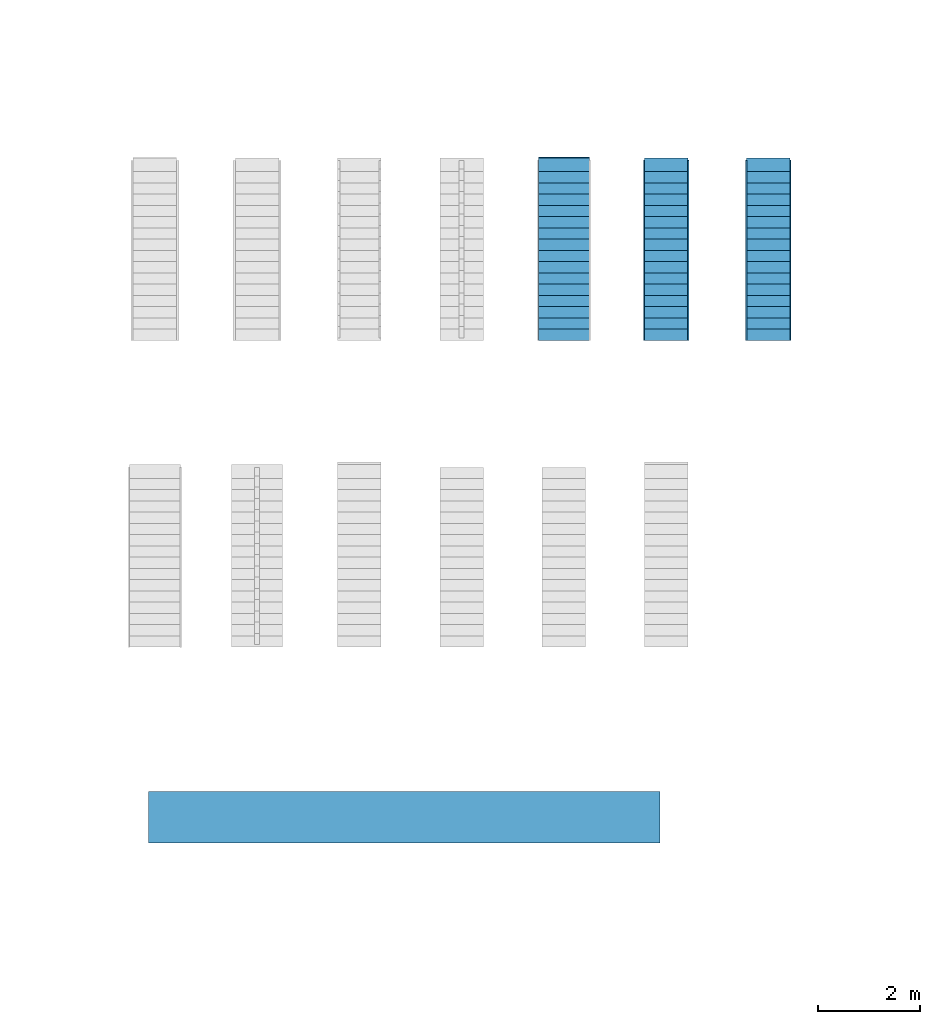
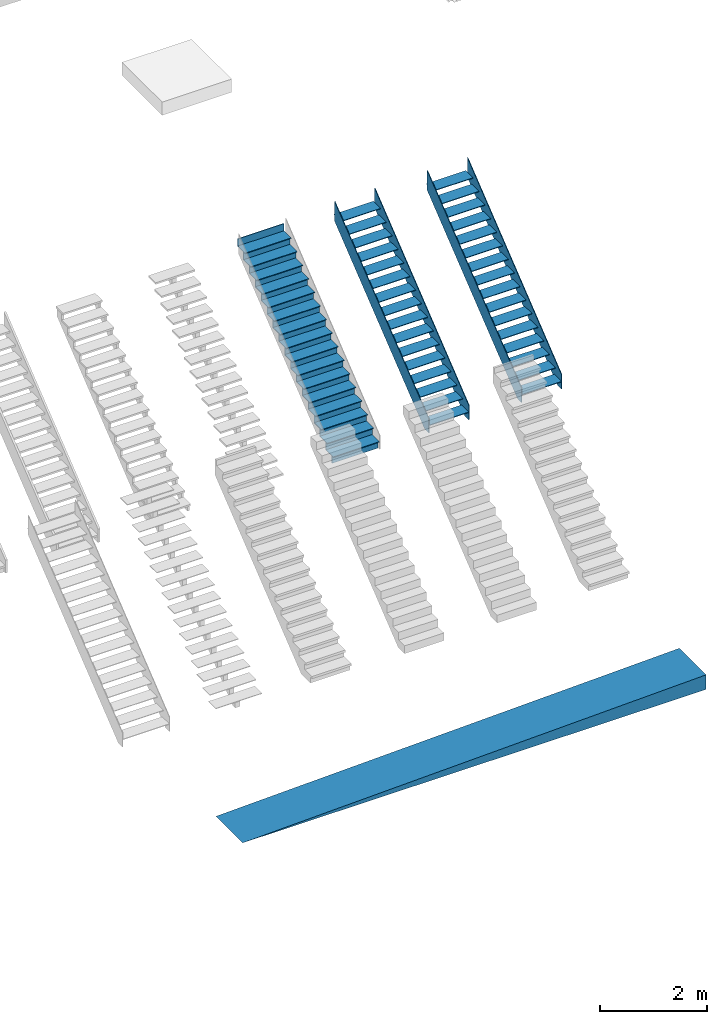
# One storey, part 5 of 11: 5 stairs, 1 ramp, 6 elements without a shape of their own.
"""IFC2X3 building model written with IfcOpenShell, lengths in millimetres."""

from ifc_helpers import new_model, entity, si_unit, converted_unit, derived_unit, direction, frame, frame_2d, origin, origin_2d_with_axis, place, context, subcontext, project, spatial, polyline, rectangle, outline, extrude, material, element, aggregate, save


model = new_model("IFC2X3")

# Units and contexts
model_context = context("Model", 3, precision=0.01, world=origin(), true_north=direction((6.12303176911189e-17, 1.0)))
body_context = subcontext(model_context, "Body", "Model", "MODEL_VIEW")
ifc_project = project(units=[si_unit("LENGTHUNIT", "METRE", prefix="MILLI"), si_unit("AREAUNIT", "SQUARE_METRE"), si_unit("VOLUMEUNIT", "CUBIC_METRE"), converted_unit("PLANEANGLEUNIT", "DEGREE", entity("IfcRatioMeasure", 0.0174532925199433), si_unit("PLANEANGLEUNIT", "RADIAN"), dimensions=[0, 0, 0, 0, 0, 0, 0]), si_unit("MASSUNIT", "GRAM", prefix="KILO"), si_unit("TIMEUNIT", "SECOND"), si_unit("FREQUENCYUNIT", "HERTZ"), si_unit("THERMODYNAMICTEMPERATUREUNIT", "KELVIN"), derived_unit("THERMALTRANSMITTANCEUNIT", [(si_unit("MASSUNIT", "GRAM", prefix="KILO"), 1), (si_unit("THERMODYNAMICTEMPERATUREUNIT", "KELVIN"), -1), (si_unit("TIMEUNIT", "SECOND"), -3)]), derived_unit("VOLUMETRICFLOWRATEUNIT", [(si_unit("LENGTHUNIT", "METRE"), 3), (si_unit("TIMEUNIT", "SECOND"), -1)]), si_unit("ELECTRICCURRENTUNIT", "AMPERE"), si_unit("ELECTRICVOLTAGEUNIT", "VOLT"), si_unit("POWERUNIT", "WATT")], contexts=[model_context])

# Site, building, storey
site_placement = place(None, origin())
site = spatial("IfcSite", under=ifc_project, at=site_placement, Name="Surface:5707", CompositionType="ELEMENT")
building_placement = place(site_placement, origin())
building = spatial("IfcBuilding", under=site, at=building_placement, CompositionType="ELEMENT")
storey_placement = place(building_placement, origin())
storey = spatial("IfcBuildingStorey", under=building, at=storey_placement, Name="00_begane grond", CompositionType="ELEMENT", Elevation=0.0)

# Stairs
stair_1_placement = place(storey_placement, frame((25274.8089026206, -25324.6322235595, 0.0)))
stair_1 = element("IfcStair", 1, at=stair_1_placement, inside=storey, Name="Assembled Stair:Stair:69280 Run 1:Stair:69280 Run 1 : Assembled Stair:Stair:69280 Run 1:3305", ObjectType="Assembled Stair:Stair:69280 Run 1:Assembled Stair:Stair:69280 Run 1:3303", ShapeType="NOTDEFINED")
ifc_material_1 = material(Name="24_staal_gegalvaniseerd_rooster_generiek")
stair_2_placement = place(stair_1_placement, origin())
stair_2 = element("IfcStair", 2, at=stair_2_placement, material=ifc_material_1, Name="Assembled Stair:Stair:69280 Run 1:Stair:69280 Run 1 : Assembled Stair:Stair:69280 Run 1:3305", ObjectType="Assembled Stair:Stair:69280 Run 1:Assembled Stair:Stair:69280 Run 1:3303", ShapeType="NOTDEFINED", context=body_context, shape_type="SweptSolid", body=[
    extrude(rectangle(XDim=15.0000000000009, YDim=999.999999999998, at=frame_2d((2.16582307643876e-12, 0.0), x_axis=(1.0, 0.0))), frame((500.0, 3577.5, 2823.5294117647), z_axis=(0.0, 0.0, 1.0), x_axis=(0.0, -1.0, 0.0)), (0.0, 0.0, 1.0), 161.470588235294),
    extrude(rectangle(XDim=14.9999999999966, YDim=999.999999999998, at=origin_2d_with_axis()), frame((500.0, 3357.49999999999, 2647.05882352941), z_axis=(0.0, 0.0, 1.0), x_axis=(0.0, -1.0, 0.0)), (0.0, 0.0, 1.0), 161.470588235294),
    extrude(rectangle(XDim=999.999999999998, YDim=285.000000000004, at=origin_2d_with_axis()), frame((500.0, 3442.5, 2808.5294117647)), (0.0, 0.0, 1.0), 14.9999999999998),
    extrude(rectangle(XDim=14.9999999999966, YDim=999.999999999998, at=origin_2d_with_axis()), frame((500.0, 3137.5, 2470.58823529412), z_axis=(0.0, 0.0, 1.0), x_axis=(0.0, -1.0, 0.0)), (0.0, 0.0, 1.0), 161.470588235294),
    extrude(rectangle(XDim=999.999999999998, YDim=285.0, at=frame_2d((0.0, 2.1600499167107e-12), x_axis=(1.0, 0.0))), frame((500.0, 3222.5, 2632.05882352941)), (0.0, 0.0, 1.0), 14.9999999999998),
    extrude(rectangle(XDim=15.0000000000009, YDim=999.999999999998, at=frame_2d((-2.16582307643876e-12, 0.0), x_axis=(1.0, 0.0))), frame((500.0, 2917.5, 2294.11764705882), z_axis=(0.0, 0.0, 1.0), x_axis=(0.0, -1.0, 0.0)), (0.0, 0.0, 1.0), 161.470588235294),
    extrude(rectangle(XDim=999.999999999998, YDim=284.999999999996, at=origin_2d_with_axis()), frame((500.0, 3002.5, 2455.58823529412)), (0.0, 0.0, 1.0), 14.9999999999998),
    extrude(rectangle(XDim=15.0000000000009, YDim=999.999999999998, at=frame_2d((-2.16582307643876e-12, 0.0), x_axis=(1.0, 0.0))), frame((500.0, 2697.49999999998, 2117.64705882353), z_axis=(0.0, 0.0, 1.0), x_axis=(0.0, -1.0, 0.0)), (0.0, 0.0, 1.0), 161.470588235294),
    extrude(rectangle(XDim=999.999999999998, YDim=285.0, at=frame_2d((0.0, -2.1600499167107e-12), x_axis=(1.0, 0.0))), frame((500.0, 2782.5, 2279.11764705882)), (0.0, 0.0, 1.0), 15.0000000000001),
    extrude(rectangle(XDim=15.0000000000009, YDim=999.999999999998, at=frame_2d((2.16582307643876e-12, 0.0), x_axis=(1.0, 0.0))), frame((500.0, 2477.5, 1941.17647058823), z_axis=(0.0, 0.0, 1.0), x_axis=(0.0, -1.0, 0.0)), (0.0, 0.0, 1.0), 161.470588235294),
    extrude(rectangle(XDim=999.999999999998, YDim=285.0, at=frame_2d((0.0, -2.1600499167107e-12), x_axis=(1.0, 0.0))), frame((500.0, 2562.5, 2102.64705882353)), (0.0, 0.0, 1.0), 15.0000000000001),
    extrude(rectangle(XDim=15.0000000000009, YDim=999.999999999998, at=frame_2d((2.16582307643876e-12, 0.0), x_axis=(1.0, 0.0))), frame((500.0, 2257.5, 1764.70588235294), z_axis=(0.0, 0.0, 1.0), x_axis=(0.0, -1.0, 0.0)), (0.0, 0.0, 1.0), 161.470588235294),
    extrude(rectangle(XDim=999.999999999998, YDim=285.0, at=frame_2d((0.0, 2.1600499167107e-12), x_axis=(1.0, 0.0))), frame((500.0, 2342.5, 1926.17647058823)), (0.0, 0.0, 1.0), 15.0000000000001),
    extrude(rectangle(XDim=15.0000000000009, YDim=999.999999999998, at=frame_2d((-2.16582307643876e-12, 0.0), x_axis=(1.0, 0.0))), frame((500.0, 2037.5, 1588.23529411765), z_axis=(0.0, 0.0, 1.0), x_axis=(0.0, -1.0, 0.0)), (0.0, 0.0, 1.0), 161.470588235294),
    extrude(rectangle(XDim=999.999999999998, YDim=285.0, at=frame_2d((0.0, 2.1600499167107e-12), x_axis=(1.0, 0.0))), frame((500.0, 2122.49999999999, 1749.70588235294)), (0.0, 0.0, 1.0), 15.0000000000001),
    extrude(rectangle(XDim=15.0000000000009, YDim=999.999999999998, at=frame_2d((-2.16582307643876e-12, 0.0), x_axis=(1.0, 0.0))), frame((500.0, 1817.49999999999, 1411.76470588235), z_axis=(0.0, 0.0, 1.0), x_axis=(0.0, -1.0, 0.0)), (0.0, 0.0, 1.0), 161.470588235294),
    extrude(rectangle(XDim=999.999999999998, YDim=285.0, at=frame_2d((0.0, 2.1600499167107e-12), x_axis=(1.0, 0.0))), frame((500.0, 1902.5, 1573.23529411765)), (0.0, 0.0, 1.0), 15.0000000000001),
    extrude(rectangle(XDim=15.0000000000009, YDim=999.999999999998, at=frame_2d((2.16582307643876e-12, 0.0), x_axis=(1.0, 0.0))), frame((500.0, 1597.5, 1235.29411764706), z_axis=(0.0, 0.0, 1.0), x_axis=(0.0, -1.0, 0.0)), (0.0, 0.0, 1.0), 161.470588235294),
    extrude(rectangle(XDim=999.999999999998, YDim=284.999999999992, at=frame_2d((0.0, -2.1600499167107e-12), x_axis=(1.0, 0.0))), frame((500.0, 1682.5, 1396.76470588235)), (0.0, 0.0, 1.0), 15.0000000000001),
    extrude(rectangle(XDim=15.0000000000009, YDim=999.999999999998, at=frame_2d((2.16582307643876e-12, 0.0), x_axis=(1.0, 0.0))), frame((500.0, 1377.49999999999, 1058.82352941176), z_axis=(0.0, 0.0, 1.0), x_axis=(0.0, -1.0, 0.0)), (0.0, 0.0, 1.0), 161.470588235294),
    extrude(rectangle(XDim=999.999999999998, YDim=285.0, at=frame_2d((0.0, 2.1600499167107e-12), x_axis=(1.0, 0.0))), frame((500.0, 1462.5, 1220.29411764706)), (0.0, 0.0, 1.0), 15.0000000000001),
    extrude(rectangle(XDim=15.0000000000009, YDim=999.999999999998, at=frame_2d((-2.16582307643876e-12, 0.0), x_axis=(1.0, 0.0))), frame((500.0, 1157.5, 882.35294117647), z_axis=(0.0, 0.0, 1.0), x_axis=(0.0, -1.0, 0.0)), (0.0, 0.0, 1.0), 161.470588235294),
    extrude(rectangle(XDim=999.999999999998, YDim=284.999999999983, at=frame_2d((0.0, 2.17426077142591e-12), x_axis=(1.0, 0.0))), frame((500.0, 1242.49999999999, 1043.82352941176)), (0.0, 0.0, 1.0), 15.0),
    extrude(rectangle(XDim=15.0000000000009, YDim=999.999999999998, at=frame_2d((2.16582307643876e-12, 0.0), x_axis=(1.0, 0.0))), frame((500.0, 937.499999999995, 705.882352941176), z_axis=(0.0, 0.0, 1.0), x_axis=(0.0, -1.0, 0.0)), (0.0, 0.0, 1.0), 161.470588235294),
    extrude(rectangle(XDim=999.999999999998, YDim=285.000000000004, at=origin_2d_with_axis()), frame((500.0, 1022.5, 867.35294117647)), (0.0, 0.0, 1.0), 15.0),
    extrude(rectangle(XDim=14.9999999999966, YDim=999.999999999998, at=origin_2d_with_axis()), frame((500.0, 717.499999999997, 529.411764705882), z_axis=(0.0, 0.0, 1.0), x_axis=(0.0, -1.0, 0.0)), (0.0, 0.0, 1.0), 161.470588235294),
    extrude(rectangle(XDim=999.999999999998, YDim=284.999999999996, at=origin_2d_with_axis()), frame((500.0, 802.499999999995, 690.882352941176)), (0.0, 0.0, 1.0), 15.0),
    extrude(rectangle(XDim=15.0000000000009, YDim=999.999999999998, at=frame_2d((2.16582307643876e-12, 0.0), x_axis=(1.0, 0.0))), frame((500.0, 497.5, 352.941176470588), z_axis=(0.0, 0.0, 1.0), x_axis=(0.0, -1.0, 0.0)), (0.0, 0.0, 1.0), 161.470588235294),
    extrude(rectangle(XDim=999.999999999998, YDim=285.0, at=frame_2d((0.0, -2.1600499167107e-12), x_axis=(1.0, 0.0))), frame((500.0, 582.499999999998, 514.411764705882)), (0.0, 0.0, 1.0), 15.0),
    extrude(rectangle(XDim=15.0000000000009, YDim=999.999999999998, at=frame_2d((2.16582307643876e-12, 0.0), x_axis=(1.0, 0.0))), frame((500.0, 277.499999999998, 176.470588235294), z_axis=(0.0, 0.0, 1.0), x_axis=(0.0, -1.0, 0.0)), (0.0, 0.0, 1.0), 161.470588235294),
    extrude(rectangle(XDim=999.999999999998, YDim=284.999999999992, at=frame_2d((0.0, -2.1600499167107e-12), x_axis=(1.0, 0.0))), frame((500.0, 362.5, 337.941176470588)), (0.0, 0.0, 1.0), 15.0),
    extrude(rectangle(XDim=15.0000000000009, YDim=999.999999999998, at=frame_2d((2.16582307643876e-12, 0.0), x_axis=(1.0, 0.0))), frame((500.0, 57.4999999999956, 0.0), z_axis=(0.0, 0.0, 1.0), x_axis=(0.0, -1.0, 0.0)), (0.0, 0.0, 1.0), 161.470588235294),
    extrude(rectangle(XDim=999.999999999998, YDim=285.0, at=frame_2d((0.0, 2.1600499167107e-12), x_axis=(1.0, 0.0))), frame((500.0, 142.499999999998, 161.470588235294)), (0.0, 0.0, 1.0), 15.0),
])
aggregate(stair_1, [stair_2])

stair_3_placement = place(storey_placement, frame((27334.8089026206, -25324.6322235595, 0.0)))
stair_3 = element("IfcStair", 3, at=stair_3_placement, inside=storey, Name="Assembled Stair:Stair:69283 Stringer 1:Stair:69283 Stringer 1 : Assembled Stair:Stair:69283 Stringer 1:3548", ObjectType="Assembled Stair:Stair:69283 Stringer 1:Assembled Stair:Stair:69283 Stringer 1:3546", ShapeType="NOTDEFINED")
ifc_material_2 = material(Name="24_hout_vuren_generiek")
stair_4_placement = place(stair_3_placement, origin())
stair_4 = element("IfcStair", 4, at=stair_4_placement, material=ifc_material_2, Name="Assembled Stair:Stair:69283 Stringer 1:Stair:69283 Stringer 1 : Assembled Stair:Stair:69283 Stringer 1:3548", ObjectType="Assembled Stair:Stair:69283 Stringer 1:Assembled Stair:Stair:69283 Stringer 1:3546", ShapeType="NOTDEFINED", context=body_context, shape_type="SweptSolid", body=[
    extrude(outline(polyline([(-1779.81095331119, -158.597281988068), (2542.18483927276, -158.597281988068), (2822.93350237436, 191.402718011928), (-1689.57337729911, 191.402718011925), (-1895.7340110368, -65.6108720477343), (-1779.81095331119, -158.597281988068)])), frame((865.0, 1437.72179519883, 1237.36343357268), z_axis=(1.0, 0.0, 0.0), x_axis=(0.0, 0.780054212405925, 0.625711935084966)), (0.0, 0.0, 1.0), 15.0000000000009),
    extrude(outline(polyline([(-1779.81095331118, -158.597281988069), (2542.18483927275, -158.597281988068), (2822.93350237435, 191.402718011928), (-1689.5733772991, 191.402718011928), (-1895.7340110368, -65.6108720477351), (-1779.81095331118, -158.597281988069)])), frame((0.0, 1437.72179519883, 1237.36343357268), z_axis=(1.0, 0.0, 0.0), x_axis=(0.0, 0.780054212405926, 0.625711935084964)), (0.0, 0.0, 1.0), 15.0000000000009),
])
aggregate(stair_3, [stair_4])

stair_5_placement = place(storey_placement, frame((27349.8089026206, -25324.6322235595, 161.470588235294)))
stair_5 = element("IfcStair", 5, at=stair_5_placement, inside=storey, Name="Assembled Stair:Stair:69283 Run 1:Stair:69283 Run 1 : Assembled Stair:Stair:69283 Run 1:3573", ObjectType="Assembled Stair:Stair:69283 Run 1:Assembled Stair:Stair:69283 Run 1:3571", ShapeType="NOTDEFINED")
stair_6_placement = place(stair_5_placement, origin())
stair_6 = element("IfcStair", 6, at=stair_6_placement, material=ifc_material_1, Name="Assembled Stair:Stair:69283 Run 1:Stair:69283 Run 1 : Assembled Stair:Stair:69283 Run 1:3573", ObjectType="Assembled Stair:Stair:69283 Run 1:Assembled Stair:Stair:69283 Run 1:3571", ShapeType="NOTDEFINED", context=body_context, shape_type="SweptSolid", body=[
    extrude(rectangle(XDim=849.999999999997, YDim=270.000000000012, at=frame_2d((0.0, -2.17426077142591e-12), x_axis=(1.0, 0.0))), frame((425.0, 3435.0, 2647.05882352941)), (0.0, 0.0, 1.0), 14.9999999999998),
    extrude(rectangle(XDim=849.999999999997, YDim=269.999999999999, at=origin_2d_with_axis()), frame((425.0, 3215.0, 2470.58823529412)), (0.0, 0.0, 1.0), 14.9999999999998),
    extrude(rectangle(XDim=849.999999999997, YDim=269.999999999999, at=origin_2d_with_axis()), frame((425.0, 2995.0, 2294.11764705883)), (0.0, 0.0, 1.0), 14.9999999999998),
    extrude(rectangle(XDim=849.999999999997, YDim=269.999999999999, at=origin_2d_with_axis()), frame((425.0, 2775.0, 2117.64705882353)), (0.0, 0.0, 1.0), 15.0000000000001),
    extrude(rectangle(XDim=849.999999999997, YDim=270.000000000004, at=frame_2d((0.0, -2.1600499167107e-12), x_axis=(1.0, 0.0))), frame((425.0, 2555.0, 1941.17647058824)), (0.0, 0.0, 1.0), 15.0000000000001),
    extrude(rectangle(XDim=849.999999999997, YDim=269.999999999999, at=origin_2d_with_axis()), frame((425.0, 2335.0, 1764.70588235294)), (0.0, 0.0, 1.0), 15.0000000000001),
    extrude(rectangle(XDim=849.999999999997, YDim=269.999999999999, at=origin_2d_with_axis()), frame((425.0, 2115.0, 1588.23529411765)), (0.0, 0.0, 1.0), 15.0000000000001),
    extrude(rectangle(XDim=849.999999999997, YDim=270.000000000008, at=origin_2d_with_axis()), frame((425.0, 1895.0, 1411.76470588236)), (0.0, 0.0, 1.0), 15.0000000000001),
    extrude(rectangle(XDim=849.999999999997, YDim=269.999999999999, at=origin_2d_with_axis()), frame((425.0, 1675.0, 1235.29411764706)), (0.0, 0.0, 1.0), 15.0000000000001),
    extrude(rectangle(XDim=849.999999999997, YDim=270.000000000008, at=origin_2d_with_axis()), frame((425.0, 1455.0, 1058.82352941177)), (0.0, 0.0, 1.0), 15.0000000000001),
    extrude(rectangle(XDim=849.999999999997, YDim=269.999999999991, at=origin_2d_with_axis()), frame((425.0, 1235.0, 882.352941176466)), (0.0, 0.0, 1.0), 15.0),
    extrude(rectangle(XDim=849.999999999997, YDim=270.000000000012, at=frame_2d((0.0, -2.17426077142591e-12), x_axis=(1.0, 0.0))), frame((425.0, 1015.0, 705.882352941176)), (0.0, 0.0, 1.0), 15.0),
    extrude(rectangle(XDim=849.999999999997, YDim=269.999999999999, at=origin_2d_with_axis()), frame((425.0, 795.0, 529.411764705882)), (0.0, 0.0, 1.0), 15.0),
    extrude(rectangle(XDim=849.999999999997, YDim=270.000000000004, at=frame_2d((0.0, -2.1600499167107e-12), x_axis=(1.0, 0.0))), frame((425.0, 575.0, 352.941176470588)), (0.0, 0.0, 1.0), 15.0),
    extrude(rectangle(XDim=849.999999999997, YDim=269.999999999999, at=origin_2d_with_axis()), frame((425.0, 355.0, 176.470588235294)), (0.0, 0.0, 1.0), 15.0),
    extrude(rectangle(XDim=849.999999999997, YDim=270.000000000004, at=frame_2d((0.0, 2.1600499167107e-12), x_axis=(1.0, 0.0))), frame((425.0, 135.0, 0.0)), (0.0, 0.0, 1.0), 15.0),
])
aggregate(stair_5, [stair_6])

stair_7_placement = place(storey_placement, frame((29334.8089026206, -25324.6322235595, 0.0)))
stair_7 = element("IfcStair", 7, at=stair_7_placement, inside=storey, Name="Assembled Stair:Stair:69288 Stringer 1:Stair:69288 Stringer 1 : Assembled Stair:Stair:69288 Stringer 1:3696", ObjectType="Assembled Stair:Stair:69288 Stringer 1:Assembled Stair:Stair:69288 Stringer 1:3694", ShapeType="NOTDEFINED")
stair_8_placement = place(stair_7_placement, origin())
stair_8 = element("IfcStair", 8, at=stair_8_placement, material=ifc_material_2, Name="Assembled Stair:Stair:69288 Stringer 1:Stair:69288 Stringer 1 : Assembled Stair:Stair:69288 Stringer 1:3696", ObjectType="Assembled Stair:Stair:69288 Stringer 1:Assembled Stair:Stair:69288 Stringer 1:3694", ShapeType="NOTDEFINED", context=body_context, shape_type="SweptSolid", body=[
    extrude(outline(polyline([(-1779.81095331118, -158.597281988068), (2542.18483927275, -158.597281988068), (2822.93350237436, 191.402718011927), (-1689.57337729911, 191.40271801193), (-1895.73401103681, -65.6108720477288), (-1779.81095331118, -158.597281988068)])), frame((865.0, 1437.72179519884, 1237.36343357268), z_axis=(1.0, 0.0, 0.0), x_axis=(0.0, 0.780054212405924, 0.625711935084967)), (0.0, 0.0, 1.0), 15.0000000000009),
    extrude(outline(polyline([(-1779.81095331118, -158.597281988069), (2542.18483927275, -158.597281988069), (2822.93350237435, 191.402718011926), (-1689.57337729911, 191.402718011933), (-1895.7340110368, -65.6108720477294), (-1779.81095331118, -158.597281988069)])), frame((0.0, 1437.72179519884, 1237.36343357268), z_axis=(1.0, 0.0, 0.0), x_axis=(0.0, 0.780054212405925, 0.625711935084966)), (0.0, 0.0, 1.0), 15.0000000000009),
])
aggregate(stair_7, [stair_8])

stair_9_placement = place(storey_placement, frame((29349.8089026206, -25324.6322235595, 161.470588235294)))
stair_9 = element("IfcStair", 9, at=stair_9_placement, inside=storey, Name="Assembled Stair:Stair:69288 Run 1:Stair:69288 Run 1 : Assembled Stair:Stair:69288 Run 1:3721", ObjectType="Assembled Stair:Stair:69288 Run 1:Assembled Stair:Stair:69288 Run 1:3719", ShapeType="NOTDEFINED")
stair_10_placement = place(stair_9_placement, origin())
stair_10 = element("IfcStair", 10, at=stair_10_placement, material=ifc_material_1, Name="Assembled Stair:Stair:69288 Run 1:Stair:69288 Run 1 : Assembled Stair:Stair:69288 Run 1:3721", ObjectType="Assembled Stair:Stair:69288 Run 1:Assembled Stair:Stair:69288 Run 1:3719", ShapeType="NOTDEFINED", context=body_context, shape_type="SweptSolid", body=[
    extrude(rectangle(XDim=849.999999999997, YDim=270.000000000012, at=frame_2d((0.0, -2.17426077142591e-12), x_axis=(1.0, 0.0))), frame((425.0, 3435.0, 2647.05882352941)), (0.0, 0.0, 1.0), 14.9999999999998),
    extrude(rectangle(XDim=849.999999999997, YDim=269.999999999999, at=origin_2d_with_axis()), frame((425.0, 3215.0, 2470.58823529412)), (0.0, 0.0, 1.0), 14.9999999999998),
    extrude(rectangle(XDim=849.999999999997, YDim=269.999999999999, at=origin_2d_with_axis()), frame((425.0, 2995.0, 2294.11764705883)), (0.0, 0.0, 1.0), 14.9999999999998),
    extrude(rectangle(XDim=849.999999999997, YDim=269.999999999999, at=origin_2d_with_axis()), frame((425.0, 2775.0, 2117.64705882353)), (0.0, 0.0, 1.0), 15.0000000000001),
    extrude(rectangle(XDim=849.999999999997, YDim=270.000000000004, at=frame_2d((0.0, -2.1600499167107e-12), x_axis=(1.0, 0.0))), frame((425.0, 2555.0, 1941.17647058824)), (0.0, 0.0, 1.0), 15.0000000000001),
    extrude(rectangle(XDim=849.999999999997, YDim=269.999999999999, at=origin_2d_with_axis()), frame((425.0, 2335.0, 1764.70588235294)), (0.0, 0.0, 1.0), 15.0000000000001),
    extrude(rectangle(XDim=849.999999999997, YDim=269.999999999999, at=origin_2d_with_axis()), frame((425.0, 2115.0, 1588.23529411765)), (0.0, 0.0, 1.0), 15.0000000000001),
    extrude(rectangle(XDim=849.999999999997, YDim=270.000000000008, at=origin_2d_with_axis()), frame((425.0, 1895.0, 1411.76470588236)), (0.0, 0.0, 1.0), 15.0000000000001),
    extrude(rectangle(XDim=849.999999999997, YDim=269.999999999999, at=origin_2d_with_axis()), frame((425.0, 1675.0, 1235.29411764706)), (0.0, 0.0, 1.0), 15.0000000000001),
    extrude(rectangle(XDim=849.999999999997, YDim=270.000000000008, at=origin_2d_with_axis()), frame((425.0, 1455.0, 1058.82352941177)), (0.0, 0.0, 1.0), 15.0000000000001),
    extrude(rectangle(XDim=849.999999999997, YDim=269.999999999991, at=origin_2d_with_axis()), frame((425.0, 1235.0, 882.352941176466)), (0.0, 0.0, 1.0), 15.0),
    extrude(rectangle(XDim=849.999999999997, YDim=270.000000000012, at=frame_2d((0.0, -2.17426077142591e-12), x_axis=(1.0, 0.0))), frame((425.0, 1015.0, 705.882352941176)), (0.0, 0.0, 1.0), 15.0),
    extrude(rectangle(XDim=849.999999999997, YDim=269.999999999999, at=origin_2d_with_axis()), frame((425.0, 795.0, 529.411764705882)), (0.0, 0.0, 1.0), 15.0),
    extrude(rectangle(XDim=849.999999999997, YDim=270.000000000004, at=frame_2d((0.0, -2.1600499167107e-12), x_axis=(1.0, 0.0))), frame((425.0, 575.0, 352.941176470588)), (0.0, 0.0, 1.0), 15.0),
    extrude(rectangle(XDim=849.999999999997, YDim=269.999999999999, at=origin_2d_with_axis()), frame((425.0, 355.0, 176.470588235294)), (0.0, 0.0, 1.0), 15.0),
    extrude(rectangle(XDim=849.999999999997, YDim=270.000000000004, at=frame_2d((0.0, 2.1600499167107e-12), x_axis=(1.0, 0.0))), frame((425.0, 135.0, 0.0)), (0.0, 0.0, 1.0), 15.0),
])
aggregate(stair_9, [stair_10])

# Ramps
ramp_1_placement = place(storey_placement, frame((17650.3204725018, -35150.6479444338, 0.0)))
ramp_1 = element("IfcRamp", 11, at=ramp_1_placement, inside=storey, Name="Ramp:24_RA_hellingbaan_beton_prefab_solid:1:24_RA_hellingbaan_beton_prefab_solid:1 : Ramp:24_RA_hellingbaan_beton_prefab_solid:1:4361", ObjectType="Ramp:24_RA_hellingbaan_beton_prefab_solid:1:Ramp:24_RA_hellingbaan_beton_prefab_solid:1:4359", ShapeType="NOTDEFINED")
ifc_material_3 = material(Name="24_beton_prefab_generiek")
ramp_2_placement = place(ramp_1_placement, origin())
ramp_2 = element("IfcRamp", 12, at=ramp_2_placement, material=ifc_material_3, Name="Ramp:24_RA_hellingbaan_beton_prefab_solid:1:24_RA_hellingbaan_beton_prefab_solid:1 : Ramp:24_RA_hellingbaan_beton_prefab_solid:1:4361", ObjectType="Ramp:24_RA_hellingbaan_beton_prefab_solid:1:Ramp:24_RA_hellingbaan_beton_prefab_solid:1:4359", ShapeType="NOTDEFINED", context=body_context, shape_type="SweptSolid", body=[
    extrude(outline(polyline([(-3333.33333333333, -111.111111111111), (6666.66666666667, -111.111111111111), (-3333.33333333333, 222.222222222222), (-3333.33333333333, -111.111111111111)])), frame((6666.66666666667, 0.0, 111.111111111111), z_axis=(0.0, 1.0, 0.0), x_axis=(-1.0, 0.0, 0.0)), (0.0, 0.0, 1.0), 999.999999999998),
])
aggregate(ramp_1, [ramp_2])

save(model, "model.ifc")
